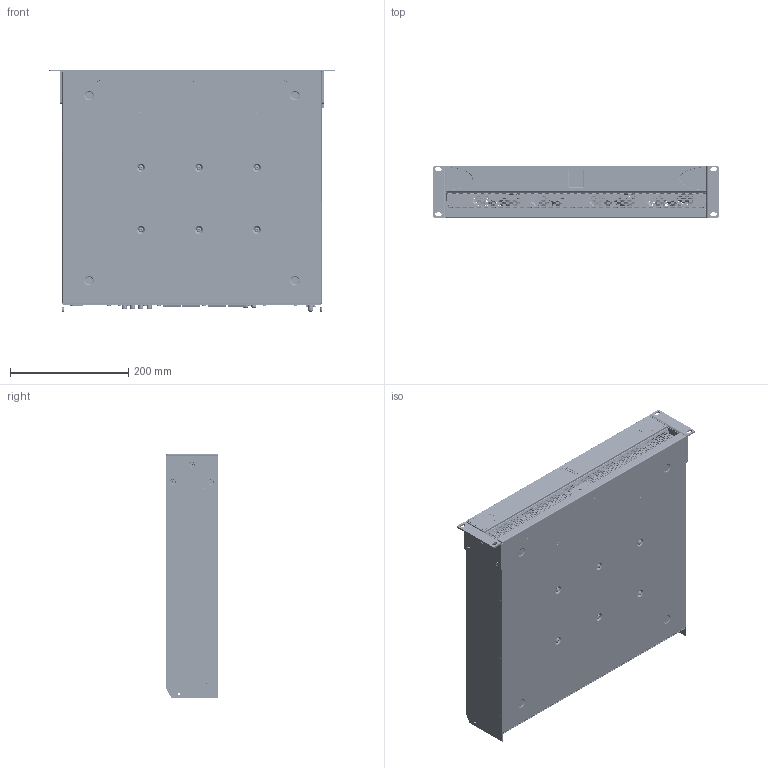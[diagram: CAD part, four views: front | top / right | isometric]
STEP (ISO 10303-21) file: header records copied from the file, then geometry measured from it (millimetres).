
FILE_DESCRIPTION (( 'STEP AP214' ), '1' );
FILE_NAME ('Blaze Connect 6008 Amplifier.STEP', '2024-11-01T08:00:28', ( '' ), ( '' ), 'SwSTEP 2.0', 'SolidWorks 2024', '' );
FILE_SCHEMA (( 'AUTOMOTIVE_DESIGN' ));
Length unit declared in the file: millimetre
Products named in the file (50): 810-00027; 230-00024_for export; countersunk flat head cross recess screw_iso_ISO 7046-1 - M4 x 10 - Z - 10N Black; 204-00099; self-clinching nut_pmm_PEM S-M4-0 ZI--N; 230-00023; 204-00159; 230-00028; 221-00003; 190-00228_190-00228; 190-00717; 211-00143; pan head cross recess screw_iso_ISO 7045 - M3 x 6 - Z - 6N - Black; concealed-head stud_pmm_PEM CHA-M3-6 ---N; 800-00007; 810-00084_for export; 226-00019; 810-00085_export; blind standoff_pmm; 190-00768; flush stud_pmm_PEM FH-M3-8 X--N; 220-00005; concealed-head standoff_pmm_PEM CSS-M3-4 ---N; 230-00025; 190-00715; 800-00005; 190-00668; thru-hole standoff_pmm_PEM SO-M3-6 ZI--N; 190-00732; 190-00977; self-clinching nut_pmm_PEM S-M3-0 ZI--N; concealed-head stud_pmm; 190-00716; 230-00027; Blaze Connect 6008 Amplifier; torque nut 01_iso_ISO 7040-M3-N; 810-00083_for export; pan head cross recess screw_iso_ISO 7045 - M3 x 6 - Z - 6N; 830-00005; blind fastener_pmm_PEM B-M3-1 ZI--N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
Assembly tree (189 placements, depth 4):
  Blaze Connect 6008 Amplifier
    230-00024_for export
      230-00024_for export
      self-clinching nut_pmm_PEM S-M4-0 ZI--N  x8
      self-clinching nut_pmm_PEM S-M3-0 ZI--N  x2
      flush stud_pmm_PEM FH-M3-8 X--N  x2
    230-00025
      230-00025
      self-clinching nut_pmm_PEM S-M3-0 ZI--N  x11
    810-00085_export
    230-00023
      230-00023
      thru-hole standoff_pmm_PEM SO-M3-6 ZI--N  x10
      self-clinching nut_pmm_PEM S-M3-0 ZI--N  x4
    810-00083_for export
    211-00143
    810-00084_for export
    800-00005
      230-00027
        230-00027
        self-clinching nut_pmm_PEM S-M3-0 ZI--N  x4
      830-00005  x4
      190-00831
    800-00007
      230-00028
        230-00028
        concealed-head stud_pmm_PEM CHA-M3-6 ---N  x12
        concealed-head standoff_pmm_PEM CSS-M3-4 ---N  x5
      190-00715
        190-00715
        concealed-head stud_pmm  x4
      190-00717  x2
        190-00717
        blind fastener_pmm_PEM B-M3-1 ZI--N
      190-00716
        190-00716
        blind standoff_pmm  x2
        blind fastener_pmm_PEM B-M3-1 ZI--N  x3
      190-00977  x2
      810-00027
      torque nut 01_iso_ISO 7040-M3-N  x16
      pan head cross recess screw_iso_ISO 7045 - M3 x 6 - Z - 6N  x7
    190-00668
    190-00768
    204-00099
    204-00159
    226-00014_93655A356  x5
    226-00019  x5
    pan head cross recess screw_iso_ISO 7045 - M3 x 6 - Z - 6N - Black  x10
    pan head cross recess screw_iso_ISO 7045 - M3 x 6 - Z - 6N  x4
    220-00005  x19
    190-00228_190-00228  x2
    221-00003  x6
    torque nut 01_iso_ISO 7040-M3-N  x4
    190-00732  x2
    countersunk flat head cross recess screw_iso_ISO 7046-1 - M4 x 10 - Z - 10N Black  x6
Bounding box: 482.4 x 88.5 x 414.05 mm (x, y, z)
Volume: 885585.1 mm3; surface area: 1513219.5 mm2
Topology: 219 solids, 255 shells, 24308 faces, 64405 edges, 40804 vertices
Faces by surface type: plane 14278, cylinder 5260, cone 1870, bspline 1524, torus 923, sphere 453
Entity records: 516404 total; most frequent: CARTESIAN_POINT 128787, ORIENTED_EDGE 82072, DIRECTION 76460, EDGE_CURVE 41135, LINE 30130, VECTOR 30130, VERTEX_POINT 26476, AXIS2_PLACEMENT_3D 23165
